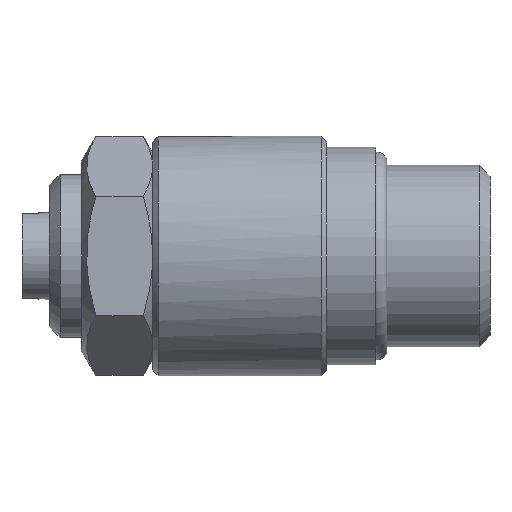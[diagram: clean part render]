
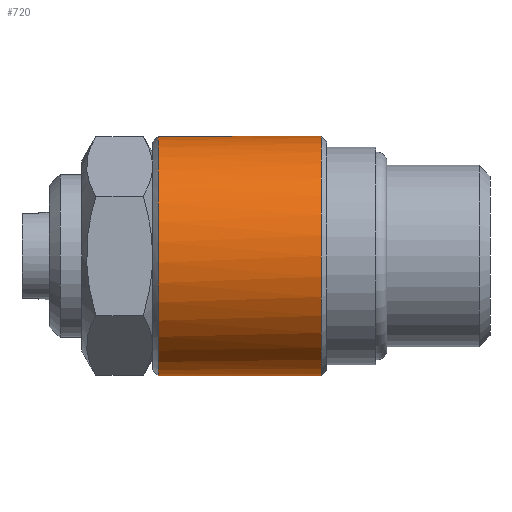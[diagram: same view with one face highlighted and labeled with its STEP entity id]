
A CAD part, left-side view. The second image highlights one B-rep face of the part: STEP entity #720.
In plain terms, the highlighted cylindrical face has radius 11 mm (diameter 22 mm), a full revolution.
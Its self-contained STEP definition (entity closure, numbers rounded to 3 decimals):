
#27=B_SPLINE_CURVE_WITH_KNOTS('',3,(#1143,#1144,#1145,#1146,#1147,#1148,
#1149,#1150,#1151,#1152,#1153,#1154,#1155,#1156,#1157,#1158,#1159,#1160),
 .UNSPECIFIED.,.F.,.F.,(4,2,2,2,2,2,2,2,4),(0.099,0.212,
0.423,0.635,0.846,1.057,1.268,
1.48,1.593),.UNSPECIFIED.);
#28=B_SPLINE_CURVE_WITH_KNOTS('',3,(#1161,#1162,#1163,#1164,#1165,#1166,
#1167,#1168,#1169,#1170,#1171,#1172,#1173,#1174,#1175,#1176,#1177,#1178),
 .UNSPECIFIED.,.F.,.F.,(4,2,2,2,2,2,2,2,4),(1.79,1.903,
2.115,2.326,2.537,2.748,2.959,
3.171,3.284),.UNSPECIFIED.);
#35=LINE('',#1123,#59);
#36=LINE('',#1126,#60);
#59=VECTOR('',#896,2.);
#60=VECTOR('',#899,2.);
#129=CYLINDRICAL_SURFACE('',#783,11.);
#142=FACE_BOUND('',#232,.T.);
#143=FACE_BOUND('',#233,.T.);
#176=FACE_OUTER_BOUND('',#231,.T.);
#231=EDGE_LOOP('',(#528));
#232=EDGE_LOOP('',(#529,#530,#531,#532,#533,#534,#535,#536));
#233=EDGE_LOOP('',(#537));
#304=CIRCLE('',#774,11.);
#305=CIRCLE('',#776,11.);
#306=CIRCLE('',#778,11.);
#307=CIRCLE('',#782,11.);
#308=CIRCLE('',#784,11.);
#309=CIRCLE('',#785,11.);
#347=VERTEX_POINT('',#1092);
#348=VERTEX_POINT('',#1094);
#351=VERTEX_POINT('',#1103);
#352=VERTEX_POINT('',#1105);
#353=VERTEX_POINT('',#1109);
#354=VERTEX_POINT('',#1110);
#357=VERTEX_POINT('',#1125);
#359=VERTEX_POINT('',#1133);
#361=VERTEX_POINT('',#1141);
#362=VERTEX_POINT('',#1179);
#414=EDGE_CURVE('',#348,#347,#304,.T.);
#418=EDGE_CURVE('',#352,#351,#305,.T.);
#420=EDGE_CURVE('',#353,#354,#306,.T.);
#425=EDGE_CURVE('',#347,#352,#35,.T.);
#426=EDGE_CURVE('',#354,#357,#36,.T.);
#429=EDGE_CURVE('',#357,#359,#307,.T.);
#432=EDGE_CURVE('',#361,#361,#308,.T.);
#433=EDGE_CURVE('',#348,#359,#27,.T.);
#434=EDGE_CURVE('',#353,#351,#28,.T.);
#435=EDGE_CURVE('',#362,#362,#309,.T.);
#528=ORIENTED_EDGE('',*,*,#432,.F.);
#529=ORIENTED_EDGE('',*,*,#420,.T.);
#530=ORIENTED_EDGE('',*,*,#426,.T.);
#531=ORIENTED_EDGE('',*,*,#429,.T.);
#532=ORIENTED_EDGE('',*,*,#433,.F.);
#533=ORIENTED_EDGE('',*,*,#414,.T.);
#534=ORIENTED_EDGE('',*,*,#425,.T.);
#535=ORIENTED_EDGE('',*,*,#418,.T.);
#536=ORIENTED_EDGE('',*,*,#434,.F.);
#537=ORIENTED_EDGE('',*,*,#435,.F.);
#720=ADVANCED_FACE('',(#176,#142,#143),#129,.T.);
#774=AXIS2_PLACEMENT_3D('',#1095,#879,#880);
#776=AXIS2_PLACEMENT_3D('',#1106,#885,#886);
#778=AXIS2_PLACEMENT_3D('',#1111,#890,#891);
#782=AXIS2_PLACEMENT_3D('',#1134,#903,#904);
#783=AXIS2_PLACEMENT_3D('',#1140,#906,#907);
#784=AXIS2_PLACEMENT_3D('',#1142,#908,#909);
#785=AXIS2_PLACEMENT_3D('',#1180,#910,#911);
#879=DIRECTION('center_axis',(0.,-1.,0.));
#880=DIRECTION('ref_axis',(1.,0.,0.));
#885=DIRECTION('center_axis',(0.,1.,0.));
#886=DIRECTION('ref_axis',(1.,0.,0.));
#890=DIRECTION('center_axis',(0.,1.,0.));
#891=DIRECTION('ref_axis',(1.,0.,0.));
#896=DIRECTION('',(0.,1.,0.));
#899=DIRECTION('',(0.,-1.,0.));
#903=DIRECTION('center_axis',(0.,-1.,0.));
#904=DIRECTION('ref_axis',(1.,0.,0.));
#906=DIRECTION('center_axis',(0.,-1.,0.));
#907=DIRECTION('ref_axis',(1.,0.,0.));
#908=DIRECTION('center_axis',(0.,1.,0.));
#909=DIRECTION('ref_axis',(-1.,0.,0.));
#910=DIRECTION('center_axis',(0.,-1.,0.));
#911=DIRECTION('ref_axis',(-1.,0.,0.));
#1092=CARTESIAN_POINT('',(8.874,-1.,6.5));
#1094=CARTESIAN_POINT('',(9.579,-1.,5.408));
#1095=CARTESIAN_POINT('Origin',(0.,-1.,0.));
#1103=CARTESIAN_POINT('',(9.579,1.,5.408));
#1105=CARTESIAN_POINT('',(8.874,1.,6.5));
#1106=CARTESIAN_POINT('Origin',(0.,1.,0.));
#1109=CARTESIAN_POINT('',(9.579,1.,-5.408));
#1110=CARTESIAN_POINT('',(8.874,1.,-6.5));
#1111=CARTESIAN_POINT('Origin',(0.,1.,0.));
#1123=CARTESIAN_POINT('',(8.874,0.,6.5));
#1125=CARTESIAN_POINT('',(8.874,-1.,-6.5));
#1126=CARTESIAN_POINT('',(8.874,0.,-6.5));
#1133=CARTESIAN_POINT('',(9.579,-1.,-5.408));
#1134=CARTESIAN_POINT('Origin',(0.,-1.,0.));
#1140=CARTESIAN_POINT('Origin',(0.,0.,0.));
#1141=CARTESIAN_POINT('',(11.,7.5,0.));
#1142=CARTESIAN_POINT('Origin',(0.,7.5,0.));
#1143=CARTESIAN_POINT('Ctrl Pts',(9.579,-1.,5.408));
#1144=CARTESIAN_POINT('Ctrl Pts',(9.619,-1.383,5.338));
#1145=CARTESIAN_POINT('Ctrl Pts',(9.681,-1.762,5.225));
#1146=CARTESIAN_POINT('Ctrl Pts',(9.907,-2.797,4.792));
#1147=CARTESIAN_POINT('Ctrl Pts',(10.107,-3.407,4.371));
#1148=CARTESIAN_POINT('Ctrl Pts',(10.471,-4.37,3.408));
#1149=CARTESIAN_POINT('Ctrl Pts',(10.66,-4.791,2.798));
#1150=CARTESIAN_POINT('Ctrl Pts',(10.926,-5.357,1.446));
#1151=CARTESIAN_POINT('Ctrl Pts',(11.,-5.5,0.704));
#1152=CARTESIAN_POINT('Ctrl Pts',(11.,-5.5,-0.704));
#1153=CARTESIAN_POINT('Ctrl Pts',(10.926,-5.357,-1.446));
#1154=CARTESIAN_POINT('Ctrl Pts',(10.66,-4.791,-2.798));
#1155=CARTESIAN_POINT('Ctrl Pts',(10.471,-4.37,-3.408));
#1156=CARTESIAN_POINT('Ctrl Pts',(10.107,-3.407,-4.371));
#1157=CARTESIAN_POINT('Ctrl Pts',(9.907,-2.797,-4.792));
#1158=CARTESIAN_POINT('Ctrl Pts',(9.681,-1.762,-5.225));
#1159=CARTESIAN_POINT('Ctrl Pts',(9.619,-1.383,-5.338));
#1160=CARTESIAN_POINT('Ctrl Pts',(9.579,-1.,-5.408));
#1161=CARTESIAN_POINT('Ctrl Pts',(9.579,1.,-5.408));
#1162=CARTESIAN_POINT('Ctrl Pts',(9.619,1.383,-5.338));
#1163=CARTESIAN_POINT('Ctrl Pts',(9.681,1.762,-5.225));
#1164=CARTESIAN_POINT('Ctrl Pts',(9.907,2.797,-4.792));
#1165=CARTESIAN_POINT('Ctrl Pts',(10.107,3.407,-4.371));
#1166=CARTESIAN_POINT('Ctrl Pts',(10.471,4.37,-3.408));
#1167=CARTESIAN_POINT('Ctrl Pts',(10.66,4.791,-2.798));
#1168=CARTESIAN_POINT('Ctrl Pts',(10.926,5.357,-1.446));
#1169=CARTESIAN_POINT('Ctrl Pts',(11.,5.5,-0.704));
#1170=CARTESIAN_POINT('Ctrl Pts',(11.,5.5,0.704));
#1171=CARTESIAN_POINT('Ctrl Pts',(10.926,5.357,1.446));
#1172=CARTESIAN_POINT('Ctrl Pts',(10.66,4.791,2.798));
#1173=CARTESIAN_POINT('Ctrl Pts',(10.471,4.37,3.408));
#1174=CARTESIAN_POINT('Ctrl Pts',(10.107,3.407,4.371));
#1175=CARTESIAN_POINT('Ctrl Pts',(9.907,2.797,4.792));
#1176=CARTESIAN_POINT('Ctrl Pts',(9.681,1.762,5.225));
#1177=CARTESIAN_POINT('Ctrl Pts',(9.619,1.383,5.338));
#1178=CARTESIAN_POINT('Ctrl Pts',(9.579,1.,5.408));
#1179=CARTESIAN_POINT('',(11.,-7.5,0.));
#1180=CARTESIAN_POINT('Origin',(0.,-7.5,0.));
